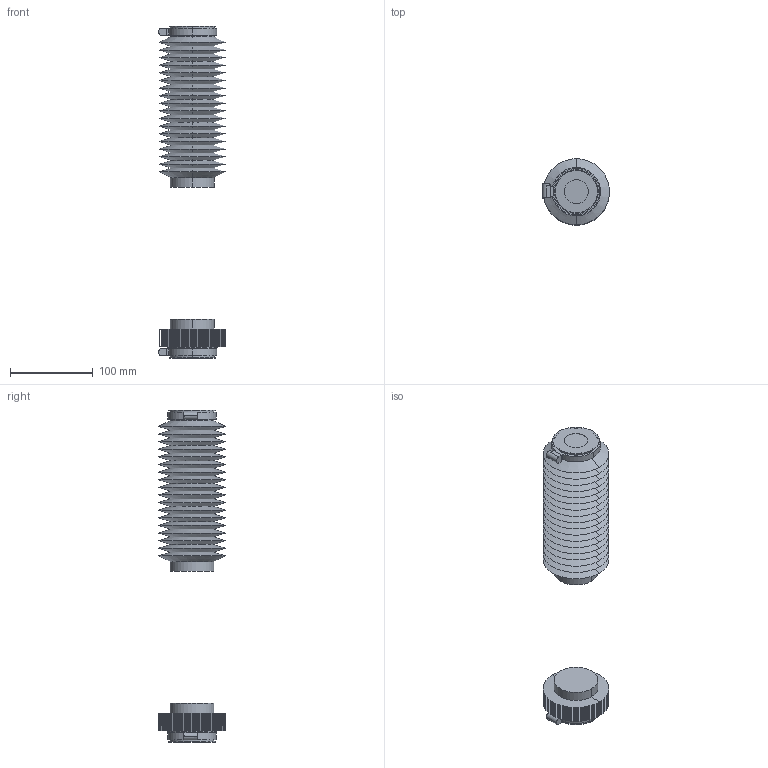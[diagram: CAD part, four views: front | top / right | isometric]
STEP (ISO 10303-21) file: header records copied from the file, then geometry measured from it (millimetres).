
FILE_DESCRIPTION (( 'STEP AP214' ), '1' );
FILE_NAME ('Link3_C550_IP54CR.step', '2019-10-23T07:38:37', ( '' ), ( '' ), 'SwSTEP 2.0', 'SolidWorks 2018', '' );
FILE_SCHEMA (( 'AUTOMOTIVE_DESIGN' ));
Length unit declared in the file: millimetre
Products named in the file (1): Link3_C550_IP54CR
Bounding box: 80.8 x 80 x 401 mm (x, y, z)
Volume: 800574.5 mm3; surface area: 258804.7 mm2
Topology: 6 solids, 6 shells, 304 faces, 648 edges, 360 vertices
Faces by surface type: cone 144, cylinder 102, plane 54, torus 4
Entity records: 8135 total; most frequent: DIRECTION 1542, CARTESIAN_POINT 1353, ORIENTED_EDGE 1296, EDGE_CURVE 648, AXIS2_PLACEMENT_3D 597, VERTEX_POINT 360, LINE 348, VECTOR 348
